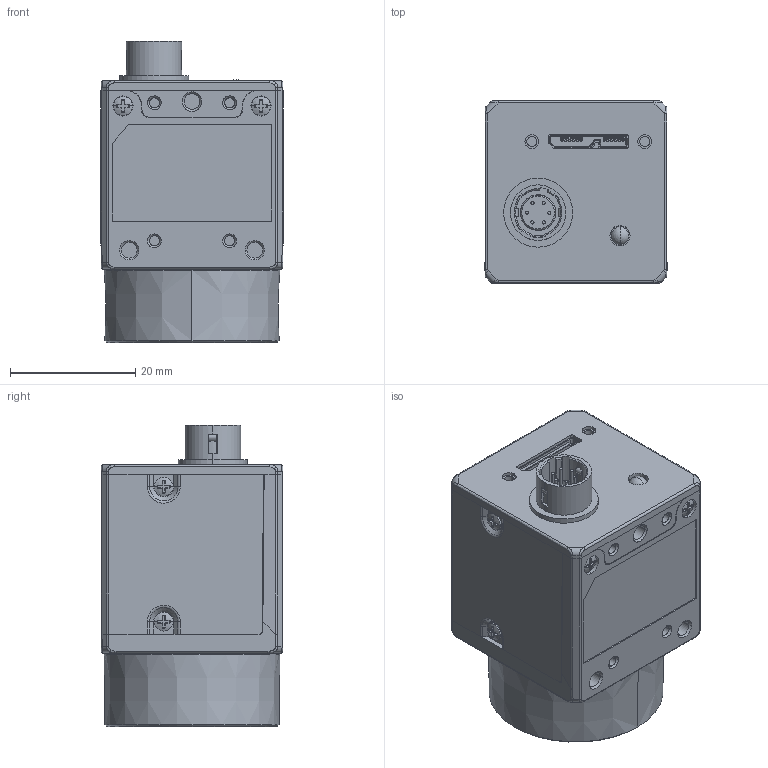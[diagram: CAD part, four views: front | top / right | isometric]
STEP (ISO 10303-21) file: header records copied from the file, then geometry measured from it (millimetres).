
FILE_DESCRIPTION((''),'2;1');
FILE_NAME('MV-CA003-21UMUC','2020-03-11T14:13:42',('wangyijun6'),(''),'CREO PARAMETRIC BY PTC INC, 2017260','CREO PARAMETRIC BY PTC INC, 2017260','');
FILE_SCHEMA(('CONFIG_CONTROL_DESIGN'));
Products named in the file (1): MV-CA003-21UMUC
Bounding box: 29.03 x 29 x 48.03 mm (x, y, z)
Volume: 26508.5 mm3; surface area: 10941.5 mm2
Topology: 1 solids, 13 shells, 1415 faces, 3738 edges, 2383 vertices
Faces by surface type: plane 580, cylinder 317, cone 191, bspline 171, torus 136, sphere 20
Entity records: 56756 total; most frequent: CARTESIAN_POINT 22418, ORIENTED_EDGE 7436, DIRECTION 6966, EDGE_CURVE 3718, AXIS2_PLACEMENT_3D 2570, VERTEX_POINT 2383, VECTOR 1826, LINE 1826
